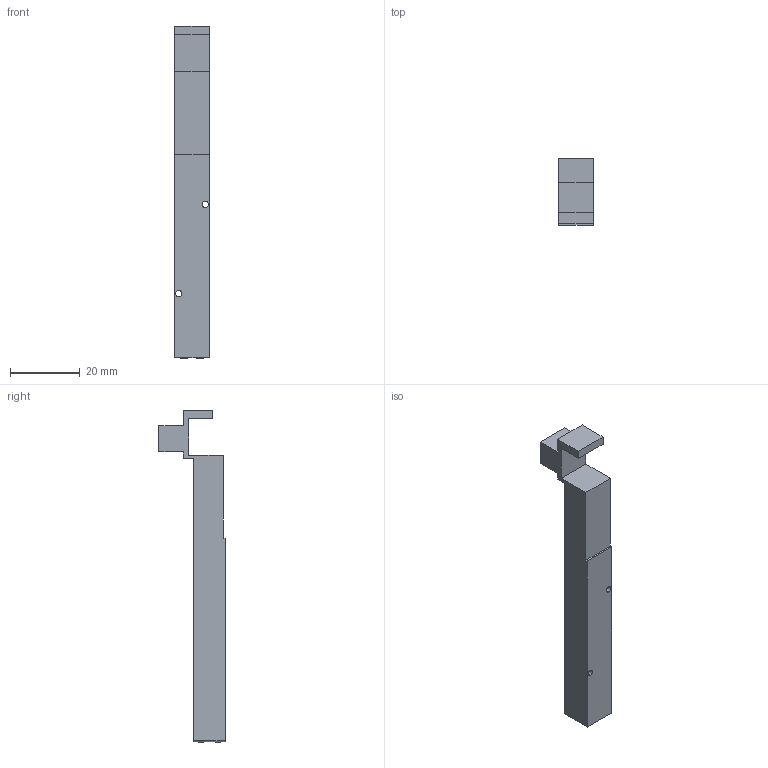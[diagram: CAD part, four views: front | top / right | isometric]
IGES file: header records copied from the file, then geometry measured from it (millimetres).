
Start section: ------------------------------------------------------------------------
Global section: file name: D:\ICADMX\tmp\trans3d_spg\CVICAD02.6860.F10ZX-XPxx_8569.igs; native system: spGate; preprocessor: ver12.6.6; author: Unknown; organization: Unknown; date: 200901.142423; units: millimetre
Bounding box: 10 x 19 x 95.3 mm (x, y, z)
Volume: 7813.6 mm3; surface area: 4378 mm2
Topology: 1 solids, 1 shells, 35 faces, 98 edges, 66 vertices
Faces by surface type: bspline 35
